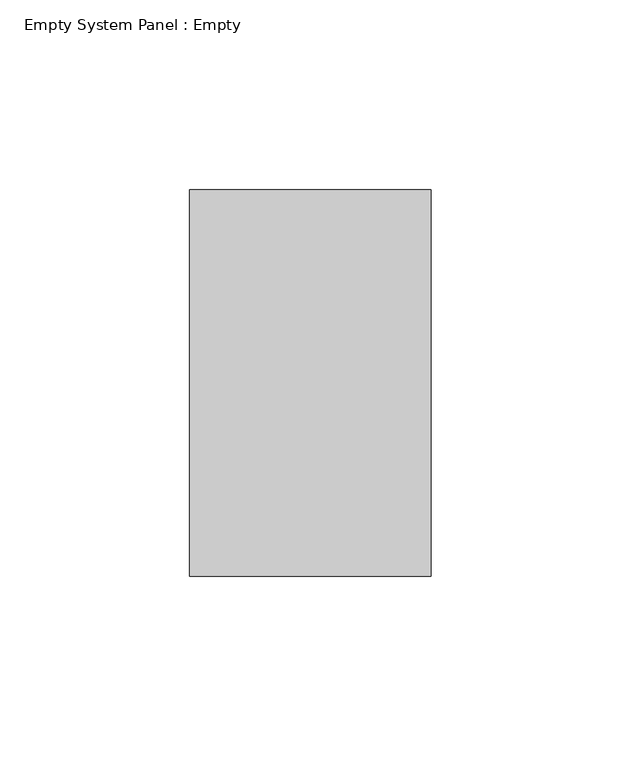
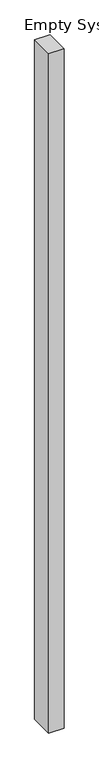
"""IFC4 building model written with IfcOpenShell, lengths in millimetres: plate geometry, Empty System Panel : Empty."""

from ifc_helpers import new_model, si_unit, origin, origin_with_axes, place, context, project, spatial, polyline, outline, extrude, source, transform, mapped, element, save


def empty_system_panel_empty_a6e8db9b(model_context):
    return source(origin(), model_context, "Body", "SweptSolid", [
        extrude(outline(polyline([(31.75, -50.8), (-31.75, -50.8), (-31.75, 50.8), (31.75, 50.8), (31.75, -50.8)])), origin_with_axes(), (0.0, 0.0, 1.0), 2997.2),
    ])


if __name__ == "__main__":
    model = new_model("IFC4")
    model_context = context("Model", 3, world=origin())
    ifc_project = project(units=[si_unit("LENGTHUNIT", "METRE", prefix="MILLI")], contexts=[model_context])
    site = spatial("IfcSite", under=ifc_project)
    building = spatial("IfcBuilding", under=site)
    placement = place(None, origin())
    empty_system_panel_empty_shape = empty_system_panel_empty_a6e8db9b(model_context)
    element("IfcPlate", 1, ObjectType="Empty System Panel : Empty", at=placement, inside=building, context=model_context, shape_type="MappedRepresentation", body=[
        mapped(empty_system_panel_empty_shape, transform((0.0, 0.0, 0.0), x_axis=(1.0, 0.0, 0.0), y_axis=(0.0, 1.0, 0.0), z_axis=(0.0, 0.0, 1.0))),
    ])
    save(model, "model.ifc")
